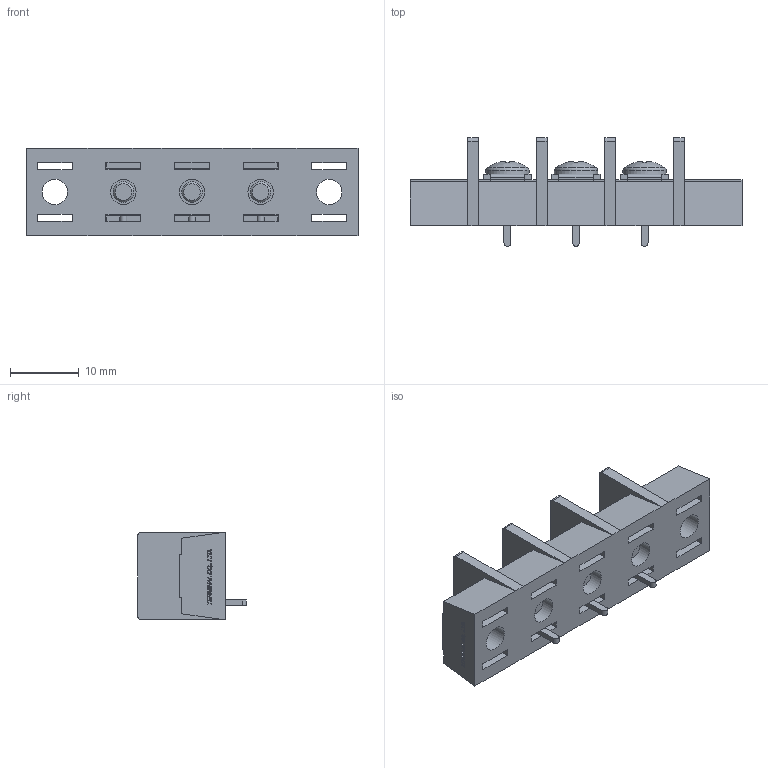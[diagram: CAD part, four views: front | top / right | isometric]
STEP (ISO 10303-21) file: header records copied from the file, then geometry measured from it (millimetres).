
FILE_DESCRIPTION(/* description */ ('Alibre Inc.'),/* implementation_level */ '2;1');
FILE_NAME(/* name */ 'export0',/* time_stamp */ '2015-10-22T19:47:44+09:00',/* author */ (''),/* organization */ (''),/* preprocessor_version */ 'ST-DEVELOPER v14',/* originating_system */ 'Alibre',/* authorisation */ '');
FILE_SCHEMA (('CONFIG_CONTROL_DESIGN'));
Length unit declared in the file: centimetre
Products named in the file (1): ID_1
Bounding box: 48.4 x 15.8 x 12.8 mm (x, y, z)
Volume: 3995.2 mm3; surface area: 4587.6 mm2
Topology: 1 solids, 52 shells, 1255 faces, 3253 edges, 2156 vertices
Faces by surface type: plane 935, bspline 260, cylinder 36, cone 15, torus 6, sphere 3
Full cylindrical faces by diameter (mm): 3 x6, 3.7 x5, 4.6 x5, 6.3 x3
Entity records: 36700 total; most frequent: CARTESIAN_POINT 8960, ORIENTED_EDGE 6428, DIRECTION 3780, EDGE_CURVE 3214, VECTOR 2497, LINE 2497, VERTEX_POINT 2145, EDGE_LOOP 1391
